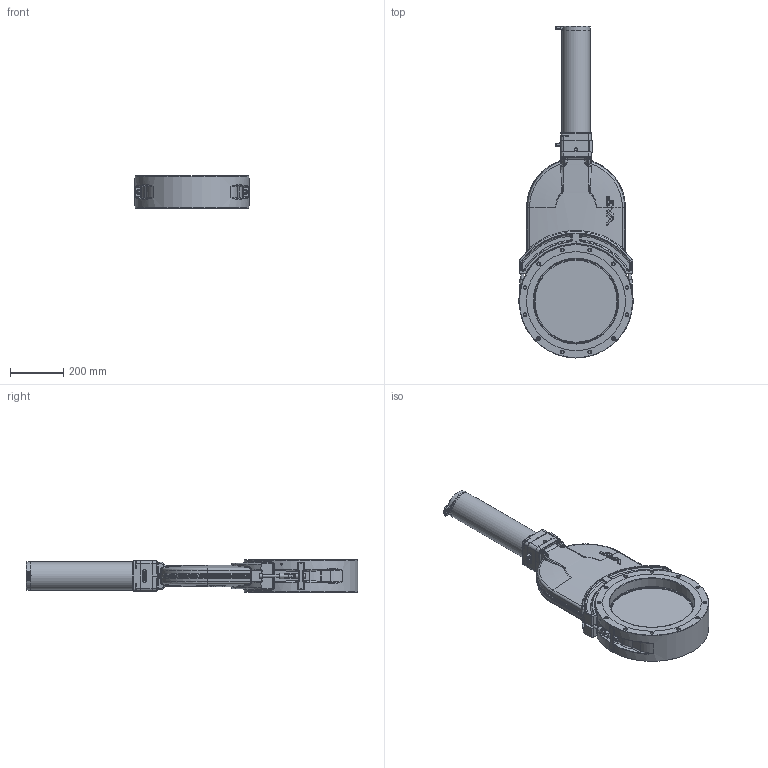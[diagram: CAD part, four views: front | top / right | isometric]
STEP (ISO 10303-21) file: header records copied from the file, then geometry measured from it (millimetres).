
FILE_DESCRIPTION(/* description */ (''),/* implementation_level */ '2;1');
FILE_NAME(/* name */ '1024793200_203.stp',/* time_stamp */ '2020-01-24T12:32:00+01:00',/* author */ (''),/* organization */ (''),/* preprocessor_version */ 'ST-DEVELOPER v16',/* originating_system */ 'SIEMENS PLM Software NX 11.0',/* authorisation */ '');
FILE_SCHEMA (('AP203_CONFIGURATION_CONTROLLED_3D_DESIGN_OF_MECHANICAL_PARTS_AND_ASSEMBLIES_MIM_LF { 1 0 10303 403 2 1 2}'));
Products named in the file (62): 228106.2; 209875.9; 209876.7; n-6013-470.1; 212188_2.1; 220724.4_27121ID; N-6121-040.1; N-6121-043.2; 209862.4; 92838-01_1.2; 80477-01.1; N-7100-005_2.1; 80478-01.1; N-6195-007.2; 93115-01.1; 87105-01.1; 73662-01.1; T-9001-296.1; 231547.1; 231509; 231512; 209884.2; 209861.5; 209860.5; 321166.1; 321153.1; 212518.1; 218192.1; 218359.3; N-7100-321_2.3; N-7108-120_1.1; N-7108-112.1; 237906.1; 210139.2; N-7108-342_1.2; 300001_27008ID; 211397.2; 211398.4; N-6121-026.2; 211950.1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
Assembly tree (91 placements, depth 5):
  228467
    78855-R1.9_NX-ARRAGMNTMassbild, alle Innenteile unterdrueckt  x2
      N-6016-478.2
      78856-R1.3
        73662-01.1
      77379-01.1
    211400.11_NX-ARRAGMNTGelenkauge gestreckt  x2
      211375.3
      211950.1
      N-6121-026.2
      211398.4
      211397.2
    212199_1.2  x2
    212501.2  x2
    212165.1  x2
    212546.1  x4
    542873
      300001_27008ID
    263436.24
    231536.18_NX-ARRAGMNTGESCHLOSSEN
      N-7108-342_1.2
      210139.2  x4
      237906.1
      N-7108-112.1  x4
      N-7108-120_1.1
      N-7100-321_2.3
      218359.3  x2
      218192.1  x4
      212518.1
      321153.1
      321166.1
      209860.5
      209861.5
      87090-R1.22_NX-ARRAGMNTclose_213913 Hub 2,95mm (mit Feder)
        87105-01.1
        93115-01.1
        N-6195-007.2
        80478-01.1
        N-7100-005_2.1
        80477-01.1
        92838-01_1.2
      87090-R1.22_NX-ARRAGMNTunbetaetigt Hub 0mm (ohne Feder)
        87105-01.1
        93115-01.1
        N-6195-007.2
        80478-01.1
        N-7100-005_2.1
        80477-01.1
      212469.3
        209862.4
        N-6121-043.2
      209884.2
      220753.4
        N-6121-040.1  x2
        220724.4_27121ID
        212188_2.1
      231512
      231509
      231547.1
      T-9001-296.1
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Bounding box: 427.96 x 1241.9 x 120 mm (x, y, z)
Volume: 12906122 mm3; surface area: 2264959 mm2
Topology: 96 solids, 96 shells, 3374 faces, 8191 edges, 5092 vertices
Faces by surface type: plane 1226, bspline 770, cylinder 736, cone 258, torus 190, extrusion 165, sphere 23, revolution 6
Full cylindrical faces by diameter (mm): 1.875 x2, 2 x4, 2.115 x8, 2.475 x6, 2.5 x4, 2.56 x2, 2.575 x2, 3 x6, 3.2 x2, 3.3 x2, 3.5 x10, 4.1 x2, 4.2 x2, 4.7 x4, 4.96 x4, 5 x15, 5.5 x2, 5.6 x2, 5.65 x2, 5.7 x2, 5.8 x4, 6 x23, 6.3 x2, 6.4 x4, 6.475 x2, 6.6 x5, 6.97 x1, 6.98 x2, 7.008 x2, 7.045 x2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
Entity records: 117505 total; most frequent: CARTESIAN_POINT 50137, ORIENTED_EDGE 12274, DIRECTION 9899, EDGE_CURVE 6137, VERTEX_POINT 4124, AXIS2_PLACEMENT_3D 3927, EDGE_LOOP 3600, ADVANCED_FACE 2805
